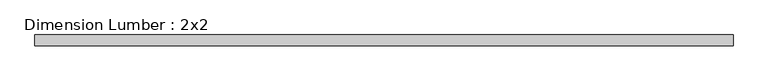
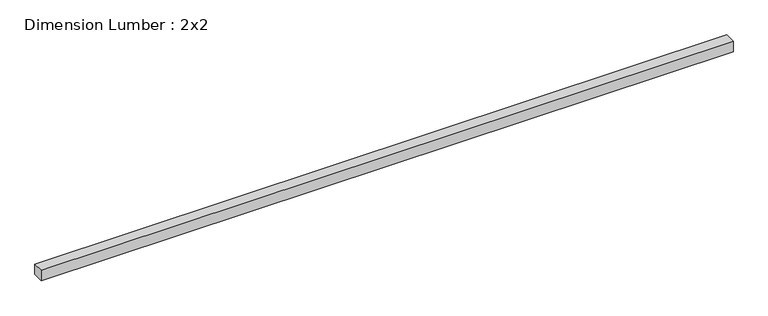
"""IFC4 building model written with IfcOpenShell, lengths in millimetres: beam geometry, Dimension Lumber : 2x2."""

import ifcopenshell
import ifcopenshell.guid

model = None  # the IFC model being written
_history = None  # IfcOwnerHistory: only IFC2X3 demands one
_inside = {}  # id of a spatial element -> (the spatial element, [elements in it])
_under = {}  # id of a project, library or spatial element -> (it, [spatial elements below it])
_declared = {}  # id of a project -> (the project, [libraries it declares])
_typed = {}  # id of a type object -> (the type object, [elements of that type])
_made_of = {}  # id of a material, layer set ... -> (it, [elements and type objects made of it])


def new_model(schema):
    """Start an empty IFC model of exactly this schema.

    Asked for "IFC4X3", IfcOpenShell would pick the latest addendum, in which some entities
    have other attributes; the version numbers below select the first issue.
    IFC2X3 requires an IfcOwnerHistory on every rooted entity: one is made here for all.
    """
    global model, _history
    if schema == "IFC4X3":
        model = ifcopenshell.file(schema_version=(4, 3, 0, 0))
    else:
        model = ifcopenshell.file(schema=schema)
    _inside.clear()
    _under.clear()
    _declared.clear()
    _typed.clear()
    _made_of.clear()
    _history = None
    if model.schema == "IFC2X3":
        org = make("IfcOrganization", Name="unknown")
        user = make(
            "IfcPersonAndOrganization",
            ThePerson=make("IfcPerson", FamilyName="unknown"),
            TheOrganization=org,
        )
        app = make(
            "IfcApplication",
            ApplicationDeveloper=org,
            Version="unknown",
            ApplicationFullName="unknown",
            ApplicationIdentifier="unknown",
        )
        _history = make(
            "IfcOwnerHistory",
            OwningUser=user,
            OwningApplication=app,
            ChangeAction="ADDED",
            CreationDate=0,
        )
    return model


def make(cls, **values):
    """One entity of the class cls with the attributes given. An attribute that is None is left unset."""
    return model.create_entity(
        cls, **{name: value for name, value in values.items() if value is not None}
    )


def rooted(cls, **values):
    """An entity with a GlobalId (a new one), such as an element, a storey or a relation."""
    return make(cls, GlobalId=ifcopenshell.guid.new(), OwnerHistory=_history, **values)


def si_unit(unit_type, name, prefix=None):
    """IfcSIUnit, for example si_unit("LENGTHUNIT", "METRE", prefix="MILLI")."""
    return make("IfcSIUnit", UnitType=unit_type, Prefix=prefix, Name=name)


def assignment(units):
    """IfcUnitAssignment: the units of a project."""
    return None if units is None else make("IfcUnitAssignment", Units=units)


def point(xyz):
    """IfcCartesianPoint."""
    return None if xyz is None else make("IfcCartesianPoint", Coordinates=xyz)


def direction(xyz):
    """IfcDirection."""
    return None if xyz is None else make("IfcDirection", DirectionRatios=xyz)


def frame(location, z_axis=None, x_axis=None):
    """IfcAxis2Placement3D, a coordinate frame: its origin and axes. An axis left out is left unset."""
    return make(
        "IfcAxis2Placement3D",
        Location=point(location),
        Axis=direction(z_axis),
        RefDirection=direction(x_axis),
    )


def origin():
    """The frame at (0, 0, 0) with its axes left unset."""
    return frame((0.0, 0.0, 0.0))


def place(relative_to, where):
    """IfcLocalPlacement: puts the frame where relative to a parent placement (None: the world)."""
    return make(
        "IfcLocalPlacement", PlacementRelTo=relative_to, RelativePlacement=where
    )


def context(
    kind, dimensions, precision=None, world=None, true_north=None, identifier=None
):
    """IfcGeometricRepresentationContext, for example the 3D "Model" context."""
    return make(
        "IfcGeometricRepresentationContext",
        ContextIdentifier=identifier,
        ContextType=kind,
        CoordinateSpaceDimension=dimensions,
        Precision=precision,
        WorldCoordinateSystem=world,
        TrueNorth=true_north,
    )


def project(units=None, contexts=None):
    """IfcProject with its units and contexts."""
    return rooted(
        "IfcProject",
        Name="project",
        RepresentationContexts=contexts,
        UnitsInContext=assignment(units),
    )


def spatial(cls, under=None, at=None, **own):
    """A site, building, storey or space (cls), placed at a placement, below another one or the project."""
    s = rooted(cls, ObjectPlacement=at, **own)
    if under is not None:
        _under.setdefault(under.id(), (under, []))[1].append(s)
    return s


def polyline(points):
    """IfcPolyline through the points."""
    return make("IfcPolyline", Points=[point(p) for p in points])


def outline(outer, holes=None, kind="AREA"):
    """IfcArbitraryClosedProfileDef: a profile drawn as a closed curve; with holes, ...WithVoids."""
    if holes is None:
        return make("IfcArbitraryClosedProfileDef", ProfileType=kind, OuterCurve=outer)
    return make(
        "IfcArbitraryProfileDefWithVoids",
        ProfileType=kind,
        OuterCurve=outer,
        InnerCurves=holes,
    )


def extrude(swept, where, along, depth):
    """IfcExtrudedAreaSolid: the profile swept, set in the frame where, extruded along a direction by depth."""
    return make(
        "IfcExtrudedAreaSolid",
        SweptArea=swept,
        Position=where,
        ExtrudedDirection=direction(along),
        Depth=depth,
    )


def shape(context_of_items, identifier, shape_type, items):
    """IfcShapeRepresentation: the items that make up one representation, for example the "Body"."""
    return make(
        "IfcShapeRepresentation",
        ContextOfItems=context_of_items,
        RepresentationIdentifier=identifier,
        RepresentationType=shape_type,
        Items=items,
    )


def source(mapping_origin, context_of_items, identifier, shape_type, items):
    """IfcRepresentationMap: a shape defined once, which mapped items show again and again."""
    return make(
        "IfcRepresentationMap",
        MappingOrigin=mapping_origin,
        MappedRepresentation=shape(context_of_items, identifier, shape_type, items),
    )


def transform(
    local_origin,
    x_axis=None,
    y_axis=None,
    z_axis=None,
    scale=None,
    scale2=None,
    scale3=None,
    uniform=True,
):
    """IfcCartesianTransformationOperator3D, or its non-uniform kind. x_axis, y_axis, z_axis: its Axis1, 2, 3."""
    if uniform:
        return make(
            "IfcCartesianTransformationOperator3D",
            Axis1=direction(x_axis),
            Axis2=direction(y_axis),
            LocalOrigin=point(local_origin),
            Scale=scale,
            Axis3=direction(z_axis),
        )
    return make(
        "IfcCartesianTransformationOperator3DnonUniform",
        Axis1=direction(x_axis),
        Axis2=direction(y_axis),
        LocalOrigin=point(local_origin),
        Scale=scale,
        Axis3=direction(z_axis),
        Scale2=scale2,
        Scale3=scale3,
    )


def mapped(mapping_source, mapping_target):
    """IfcMappedItem: shows the shape of a source again, moved by a transform."""
    return make(
        "IfcMappedItem", MappingSource=mapping_source, MappingTarget=mapping_target
    )


def made_of(thing, what):
    """Note that an element or type object is made of a material, layer set ...; save() writes the relation."""
    if what is not None:
        _made_of.setdefault(what.id(), (what, []))[1].append(thing)
    return thing


def element(
    cls,
    number,
    at=None,
    inside=None,
    cuts=None,
    type_object=None,
    material=None,
    context=None,
    identifier="Body",
    shape_type=None,
    held_by="IfcProductDefinitionShape",
    body=None,
    shapes=None,
    **own,
):
    """One element of the class cls, such as IfcWall. Its Tag is "e" and its number.

    at: its placement. inside: the storey or other place that contains it. cuts: it is an
    opening in that element (IfcRelVoidsElement). A single representation is given by context,
    identifier, shape_type and body (its items); several are given by shapes. held_by: the class
    of the entity that holds the representations. save() writes the other relations.
    """
    e = rooted(cls, Tag="e%d" % number, ObjectPlacement=at, **own)
    if body is not None:
        shapes = [shape(context, identifier, shape_type, body)]
    if shapes is not None:
        e.Representation = make(held_by, Representations=shapes)
    if inside is not None:
        _inside.setdefault(inside.id(), (inside, []))[1].append(e)
    if cuts is not None:
        rooted(
            "IfcRelVoidsElement", RelatingBuildingElement=cuts, RelatedOpeningElement=e
        )
    if type_object is not None:
        _typed.setdefault(type_object.id(), (type_object, []))[1].append(e)
    return made_of(e, material)


def aggregate(whole, parts):
    """IfcRelAggregates: a whole, such as a stair, and the parts it consists of."""
    return rooted("IfcRelAggregates", RelatingObject=whole, RelatedObjects=parts)


def save(model, path):
    """Write the relations noted so far, then the file.

    IfcRelAggregates (storeys below a building ...), IfcRelContainedInSpatialStructure (elements
    in a storey), IfcRelDefinesByType, IfcRelAssociatesMaterial and IfcRelDeclares: one each for
    every whole, place, type object, material and project.
    """
    for whole, parts in _under.values():
        aggregate(whole, parts)
    for where, things in _inside.values():
        rooted(
            "IfcRelContainedInSpatialStructure",
            RelatedElements=things,
            RelatingStructure=where,
        )
    for kind, things in _typed.values():
        rooted("IfcRelDefinesByType", RelatedObjects=things, RelatingType=kind)
    for what, things in _made_of.values():
        rooted("IfcRelAssociatesMaterial", RelatedObjects=things, RelatingMaterial=what)
    for by, libraries in _declared.values():
        rooted("IfcRelDeclares", RelatingContext=by, RelatedDefinitions=libraries)
    model.write(path)


def dimension_lumber_2x2_85b57427(model_context):
    return source(origin(), model_context, "Body", "SweptSolid", [
        extrude(outline(polyline([(1199.753125, 19.05), (1199.753125, -19.05), (-1199.753125, -19.05), (-1199.753125, 19.05), (1199.753125, 19.05)])), frame((0.0, 0.0, -19.05), z_axis=(0.0, 0.0, 1.0), x_axis=(1.0, 0.0, 0.0)), (0.0, 0.0, 1.0), 38.1),
    ])


if __name__ == "__main__":
    model = new_model("IFC4")
    model_context = context("Model", 3, world=origin())
    ifc_project = project(units=[si_unit("LENGTHUNIT", "METRE", prefix="MILLI")], contexts=[model_context])
    site = spatial("IfcSite", under=ifc_project)
    building = spatial("IfcBuilding", under=site)
    placement = place(None, origin())
    dimension_lumber_2x2_shape = dimension_lumber_2x2_85b57427(model_context)
    element("IfcBeam", 1, ObjectType="Dimension Lumber : 2x2", at=placement, inside=building, context=model_context, shape_type="MappedRepresentation", body=[
        mapped(dimension_lumber_2x2_shape, transform((0.0, 0.0, 0.0), x_axis=(1.0, 0.0, 0.0), y_axis=(0.0, 1.0, 0.0), z_axis=(0.0, 0.0, 1.0))),
    ])
    save(model, "model.ifc")
